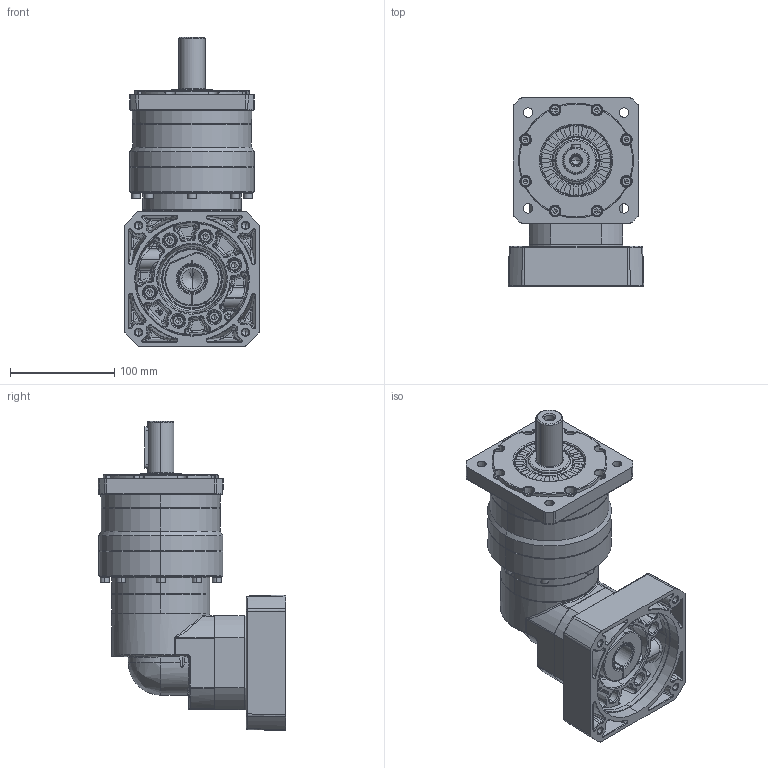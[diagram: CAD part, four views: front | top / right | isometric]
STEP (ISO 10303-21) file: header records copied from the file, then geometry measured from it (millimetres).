
FILE_DESCRIPTION (( 'STEP AP214' ), '1' );
FILE_NAME ('FBR120-L2-S2-P1 24-110-145-M8-59.STEP', '2025-02-15T08:10:16', ( '微软用户' ), ( '微软中国' ), 'SwSTEP 2.0', 'SolidWorks 2021', '' );
FILE_SCHEMA (( 'AUTOMOTIVE_DESIGN' ));
Length unit declared in the file: millimetre
Products named in the file (4): EVT090D-L1-10-80-100-M6-45; FBR120-L2-S2-P1 24-110-145-M8-59; PFR120M1-L2-24-110-145-M8-59; 7-EVT090F眻褒眊极_stp_stp.stp
Assembly tree (7 placements, depth 2):
  FBR120-L2-S2-P1 24-110-145-M8-59
    PFR120M1-L2-24-110-145-M8-59
    7-EVT090F眻褒眊极_stp_stp.stp
    EVT090D-L1-10-80-100-M6-45  x5
Bounding box: 130 x 180 x 296.5 mm (x, y, z)
Volume: 242121.5 mm3; surface area: 373823.9 mm2
Topology: 1 solids, 62 shells, 2175 faces, 5399 edges, 3394 vertices
Faces by surface type: plane 642, cylinder 559, bspline 408, cone 373, torus 163, sphere 30
Entity records: 90061 total; most frequent: CARTESIAN_POINT 44780, ORIENTED_EDGE 9913, DIRECTION 8356, EDGE_CURVE 5035, AXIS2_PLACEMENT_3D 3372, VERTEX_POINT 3214, EDGE_LOOP 2272, FACE_OUTER_BOUND 2063
